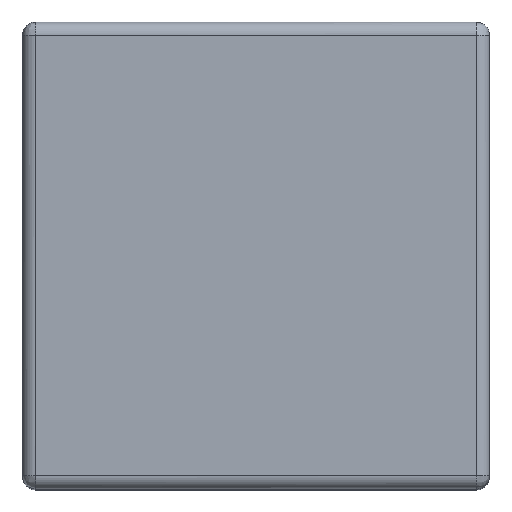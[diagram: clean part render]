
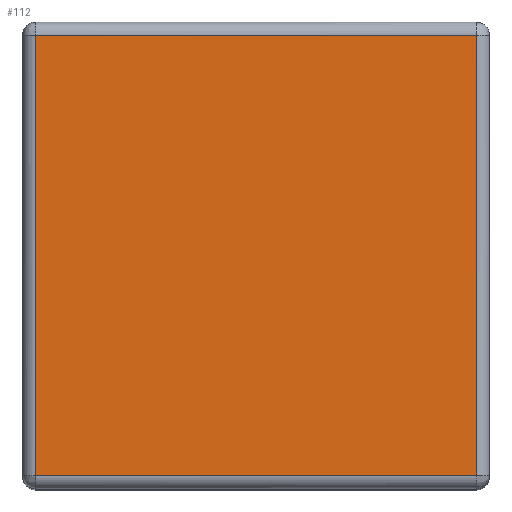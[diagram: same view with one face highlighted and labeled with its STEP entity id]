
A CAD part, top view. The second image highlights one B-rep face of the part: STEP entity #112.
In plain terms, the highlighted planar face has unit normal (0, 0, 1).
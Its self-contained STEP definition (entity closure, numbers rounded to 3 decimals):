
#21=B_SPLINE_CURVE_WITH_KNOTS('',1,(#1168,#1169),.UNSPECIFIED.,.F.,.F.,
(2,2),(10.,340.),.UNSPECIFIED.);
#22=B_SPLINE_CURVE_WITH_KNOTS('',1,(#1170,#1171),.UNSPECIFIED.,.F.,.F.,
(2,2),(10.,340.),.UNSPECIFIED.);
#23=B_SPLINE_CURVE_WITH_KNOTS('',1,(#1172,#1173),.UNSPECIFIED.,.F.,.F.,
(2,2),(10.,340.),.UNSPECIFIED.);
#24=B_SPLINE_CURVE_WITH_KNOTS('',1,(#1174,#1175),.UNSPECIFIED.,.F.,.F.,
(2,2),(10.,340.),.UNSPECIFIED.);
#112=ADVANCED_FACE('',(#154),#562,.T.);
#154=FACE_OUTER_BOUND('',#196,.T.);
#196=EDGE_LOOP('',(#274,#275,#276,#277));
#274=ORIENTED_EDGE('',*,*,#392,.T.);
#275=ORIENTED_EDGE('',*,*,#394,.T.);
#276=ORIENTED_EDGE('',*,*,#395,.T.);
#277=ORIENTED_EDGE('',*,*,#393,.T.);
#392=EDGE_CURVE('',#502,#503,#21,.T.);
#393=EDGE_CURVE('',#504,#502,#22,.T.);
#394=EDGE_CURVE('',#503,#505,#23,.T.);
#395=EDGE_CURVE('',#505,#504,#24,.T.);
#502=VERTEX_POINT('',#1128);
#503=VERTEX_POINT('',#1129);
#504=VERTEX_POINT('',#1130);
#505=VERTEX_POINT('',#1131);
#562=PLANE('',#596);
#596=AXIS2_PLACEMENT_3D('',#950,#613,$);
#613=DIRECTION('',(0.,0.,1.));
#950=CARTESIAN_POINT('',(-175.,-175.,420.));
#1128=CARTESIAN_POINT('',(165.,165.,420.));
#1129=CARTESIAN_POINT('',(-165.,165.,420.));
#1130=CARTESIAN_POINT('',(165.,-165.,420.));
#1131=CARTESIAN_POINT('',(-165.,-165.,420.));
#1168=CARTESIAN_POINT('',(165.,165.,420.));
#1169=CARTESIAN_POINT('',(-165.,165.,420.));
#1170=CARTESIAN_POINT('',(165.,-165.,420.));
#1171=CARTESIAN_POINT('',(165.,165.,420.));
#1172=CARTESIAN_POINT('',(-165.,165.,420.));
#1173=CARTESIAN_POINT('',(-165.,-165.,420.));
#1174=CARTESIAN_POINT('',(-165.,-165.,420.));
#1175=CARTESIAN_POINT('',(165.,-165.,420.));
